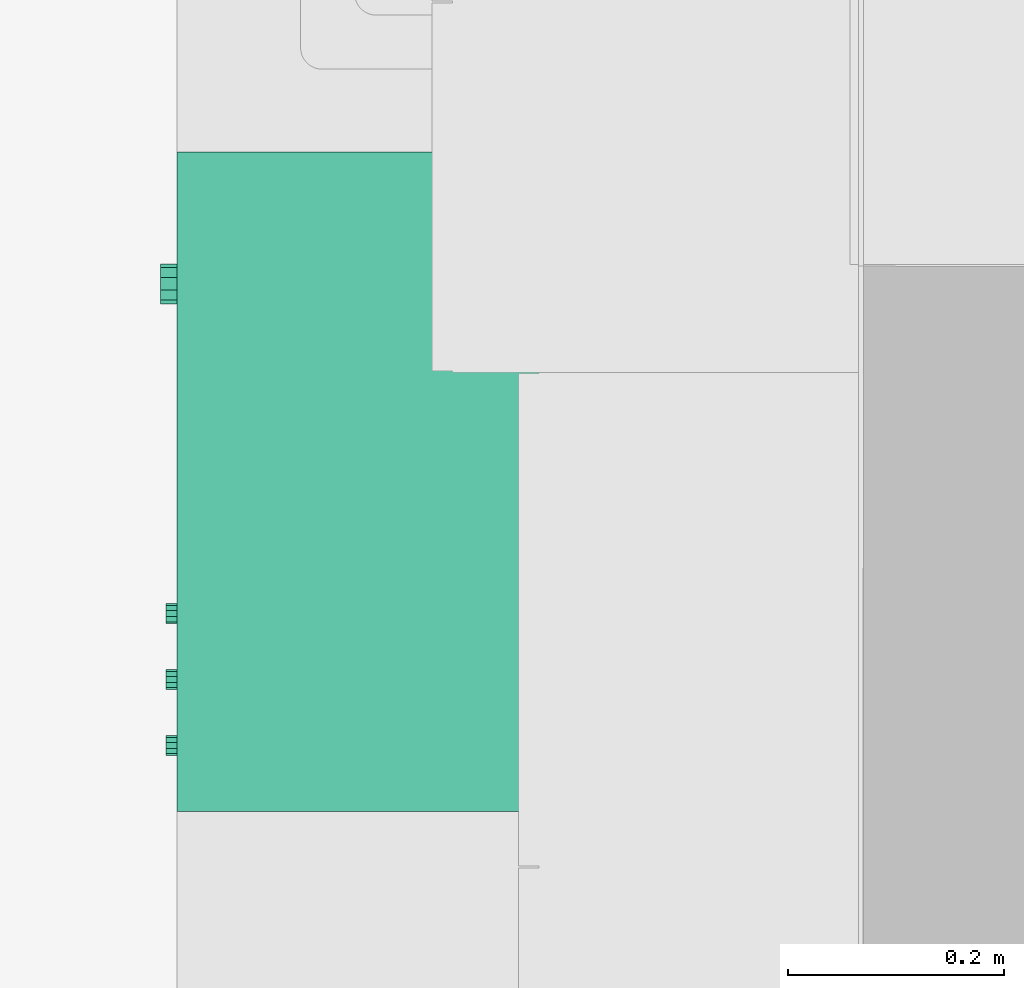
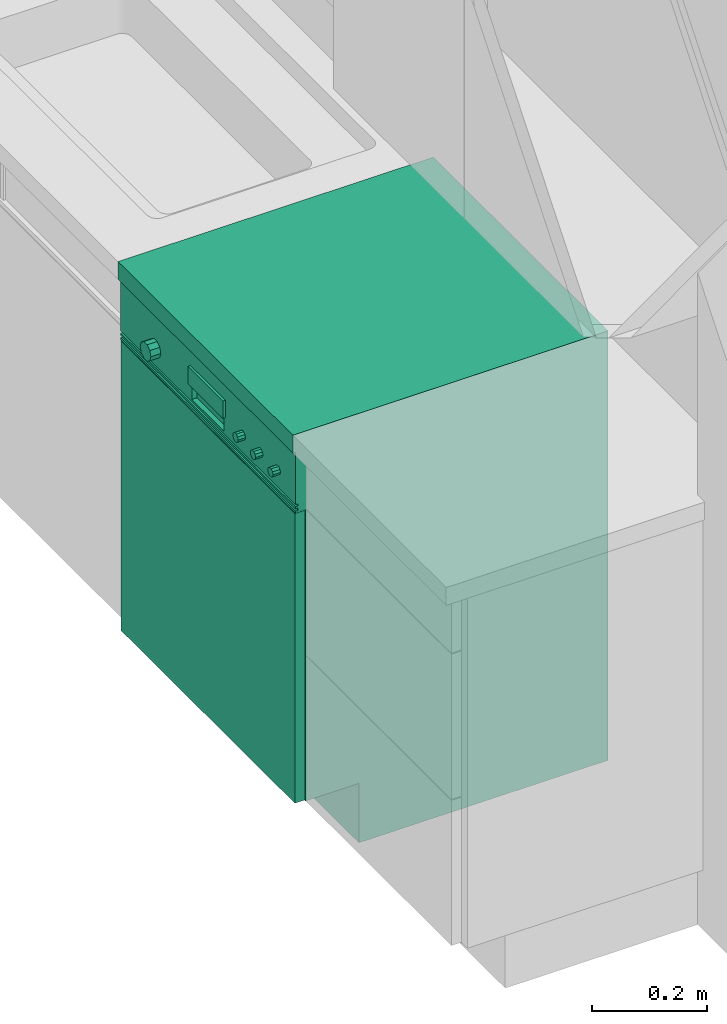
# One storey, part 52 of 77: 1 flow terminal.
"""IFC2X3 building model written with IfcOpenShell, lengths in inches."""

from ifc_helpers import new_model, entity, si_unit, converted_unit, derived_unit, money_unit, direction, frame, origin_with_axes, place, context, subcontext, project, spatial, faceted_brep, type_object, element, save


model = new_model("IFC2X3")

# Units and contexts
model_context = context("Model", 3, precision=0.000393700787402, world=origin_with_axes(), true_north=direction((0.0, 1.0)))
body_context = subcontext(model_context, "Body", "Model", "MODEL_VIEW")
ifc_project = project(units=[converted_unit("LENGTHUNIT", "INCH", entity("IfcPositiveLengthMeasure", 0.0254), si_unit("LENGTHUNIT", "METRE"), dimensions=[1, 0, 0, 0, 0, 0, 0]), converted_unit("AREAUNIT", "SQUARE_FOOT", entity("IfcPositiveLengthMeasure", 0.09290304), si_unit("AREAUNIT", "SQUARE_METRE"), dimensions=[2, 0, 0, 0, 0, 0, 0]), si_unit("PLANEANGLEUNIT", "RADIAN"), si_unit("SOLIDANGLEUNIT", "STERADIAN"), money_unit("USD"), converted_unit("TIMEUNIT", "Year", entity("IfcTimeMeasure", 31556926.0), si_unit("TIMEUNIT", "SECOND"), dimensions=[0, 0, 1, 0, 0, 0, 0]), si_unit("MASSUNIT", "GRAM", prefix="KILO"), si_unit("THERMODYNAMICTEMPERATUREUNIT", "DEGREE_CELSIUS"), si_unit("LUMINOUSINTENSITYUNIT", "LUMEN"), si_unit("ENERGYUNIT", "JOULE", prefix="MEGA"), derived_unit("THERMALCONDUCTANCEUNIT", [(si_unit("POWERUNIT", "WATT"), 1), (si_unit("LENGTHUNIT", "METRE"), -1), (si_unit("THERMODYNAMICTEMPERATUREUNIT", "KELVIN"), -1)]), derived_unit("SPECIFICHEATCAPACITYUNIT", [(si_unit("ENERGYUNIT", "JOULE"), 1), (si_unit("MASSUNIT", "GRAM", prefix="KILO"), -1), (si_unit("THERMODYNAMICTEMPERATUREUNIT", "KELVIN"), -1)]), derived_unit("MASSDENSITYUNIT", [(si_unit("MASSUNIT", "GRAM", prefix="KILO"), 1), (si_unit("VOLUMEUNIT", "CUBIC_METRE"), -1)])], contexts=[model_context])

# Site, building, storey
site_placement = place(None, origin_with_axes())
site = spatial("IfcSite", under=ifc_project, at=site_placement, Name="Site", CompositionType="ELEMENT")
building_placement = place(site_placement, origin_with_axes())
building = spatial("IfcBuilding", under=site, at=building_placement, Name="Building", CompositionType="ELEMENT")
storey_placement = place(building_placement, frame((0.0, 0.0, 127.952755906), z_axis=(0.0, 0.0, 1.0), x_axis=(1.0, 0.0, 0.0)))
storey = spatial("IfcBuildingStorey", under=building, at=storey_placement, Name="Second Floor", CompositionType="ELEMENT", Elevation=127.953)

# Flow terminal
electric_appliance_type = type_object("IfcElectricApplianceType", Name="Dishwasher Built-in 25", PredefinedType="NOTDEFINED")
flow_terminal_placement = place(storey_placement, frame((612.474370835, 254.001660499, 0.0157480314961), z_axis=(0.0, 0.0, 1.0), x_axis=(0.0, -1.0, 0.0)))
element("IfcFlowTerminal", 1, at=flow_terminal_placement, inside=storey, type_object=electric_appliance_type, Name="OBJ-96", context=body_context, shape_type="Brep", body=[
    faceted_brep([(0.0, 5.23622047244, 0.0), (24.0157480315, 5.23622047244, 0.0), (24.0157480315, 5.23622047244, 4.9842519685), (0.0, 5.23622047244, 4.9842519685), (0.0, 25.0, 0.0), (24.0157480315, 25.0, 0.0), (24.0157480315, 25.0, 4.9842519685), (0.0, 25.0, 4.9842519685)], [[[0, 1, 2, 3]], [[0, 4, 5, 1]], [[1, 5, 6, 2]], [[3, 2, 6, 7]], [[4, 0, 3, 7]], [[5, 4, 7, 6]]]),
    faceted_brep([(0.0, 0.984251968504, 33.7244094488), (0.787401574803, 0.984251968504, 33.7244094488), (0.787401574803, 0.984251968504, 34.5118110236), (0.0, 0.984251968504, 34.5118110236), (0.0, 25.0, 33.7244094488), (0.787401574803, 25.0, 33.7244094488), (23.2283464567, 25.0, 33.7244094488), (24.0157480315, 25.0, 33.7244094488), (24.0157480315, 0.984251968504, 33.7244094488), (23.2283464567, 0.984251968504, 33.7244094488), (23.2283464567, 0.984251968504, 34.5118110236), (24.0157480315, 0.984251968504, 34.5118110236), (24.0157480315, 25.0, 34.5118110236), (23.2283464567, 25.0, 34.5118110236), (0.787401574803, 25.0, 34.5118110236), (0.0, 25.0, 34.5118110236)], [[[0, 1, 2, 3]], [[0, 4, 5, 6, 7, 8, 9, 1]], [[1, 9, 10, 2]], [[3, 2, 10, 11, 12, 13, 14, 15]], [[4, 0, 3, 15]], [[5, 4, 15, 14]], [[6, 5, 14, 13]], [[7, 6, 13, 12]], [[8, 7, 12, 11]], [[9, 8, 11, 10]]]),
    faceted_brep([(0.0, 0.984251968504, 4.9842519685), (0.787401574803, 0.984251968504, 4.9842519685), (0.787401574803, 0.984251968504, 5.77165354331), (0.0, 0.984251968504, 5.77165354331), (0.0, 25.0, 4.9842519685), (0.787401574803, 25.0, 4.9842519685), (23.2283464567, 25.0, 4.9842519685), (24.0157480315, 25.0, 4.9842519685), (24.0157480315, 0.984251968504, 4.9842519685), (23.2283464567, 0.984251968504, 4.9842519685), (23.2283464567, 0.984251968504, 5.77165354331), (24.0157480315, 0.984251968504, 5.77165354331), (24.0157480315, 25.0, 5.77165354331), (23.2283464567, 25.0, 5.77165354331), (0.787401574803, 25.0, 5.77165354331), (0.0, 25.0, 5.77165354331)], [[[0, 1, 2, 3]], [[0, 4, 5, 6, 7, 8, 9, 1]], [[1, 9, 10, 2]], [[3, 2, 10, 11, 12, 13, 14, 15]], [[4, 0, 3, 15]], [[5, 4, 15, 14]], [[6, 5, 14, 13]], [[7, 6, 13, 12]], [[8, 7, 12, 11]], [[9, 8, 11, 10]]]),
    faceted_brep([(0.0, 0.984251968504, 5.77165354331), (0.787401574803, 0.984251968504, 5.77165354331), (0.787401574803, 0.984251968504, 33.7244094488), (0.0, 0.984251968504, 33.7244094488), (0.0, 25.0, 5.77165354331), (24.0157480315, 25.0, 5.77165354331), (24.0157480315, 0.984251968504, 5.77165354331), (23.2283464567, 0.984251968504, 5.77165354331), (23.2283464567, 24.2125984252, 5.77165354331), (0.787401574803, 24.2125984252, 5.77165354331), (0.787401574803, 24.2125984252, 33.7244094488), (23.2283464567, 24.2125984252, 33.7244094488), (23.2283464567, 0.984251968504, 33.7244094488), (24.0157480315, 0.984251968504, 33.7244094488), (24.0157480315, 25.0, 33.7244094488), (0.0, 25.0, 33.7244094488)], [[[0, 1, 2, 3]], [[0, 4, 5, 6, 7, 8, 9, 1]], [[1, 9, 10, 2]], [[3, 2, 10, 11, 12, 13, 14, 15]], [[4, 0, 3, 15]], [[5, 4, 15, 14]], [[6, 5, 14, 13]], [[7, 6, 13, 12]], [[8, 7, 12, 11]], [[9, 8, 11, 10]]]),
    faceted_brep([(0.0, 0.0, 34.5118110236), (24.0157480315, 0.0, 34.5118110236), (24.0157480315, 0.0, 36.0078740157), (0.0, 0.0, 36.0078740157), (0.0, 25.0, 34.5118110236), (24.0157480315, 25.0, 34.5118110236), (24.0157480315, 25.0, 36.0078740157), (0.0, 25.0, 36.0078740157)], [[[0, 1, 2, 3]], [[0, 4, 5, 1]], [[1, 5, 6, 2]], [[3, 2, 6, 7]], [[4, 0, 3, 7]], [[5, 4, 7, 6]]]),
    faceted_brep([(0.0, 0.984251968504, 30.1248593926), (24.0157480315, 0.984251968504, 30.1248593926), (24.0157480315, 0.196850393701, 30.1248593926), (0.0, 0.196850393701, 30.1248593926), (0.0, 0.984251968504, 34.5118110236), (24.0157480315, 0.984251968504, 34.5118110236), (9.6062992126, 0.984251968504, 30.1248593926), (14.4094488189, 0.984251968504, 30.1248593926), (14.4094488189, 0.984251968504, 33.0494938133), (9.6062992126, 0.984251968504, 33.0494938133), (24.0157480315, 0.196850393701, 34.5118110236), (0.0, 0.196850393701, 34.5118110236), (9.6062992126, 0.196850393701, 30.1248593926), (9.6062992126, 0.196850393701, 33.0494938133), (14.4094488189, 0.196850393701, 33.0494938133), (14.4094488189, 0.196850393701, 30.1248593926)], [[[0, 1, 2, 3]], [[0, 4, 5, 1], [6, 7, 8, 9]], [[1, 5, 10, 2]], [[3, 2, 10, 11], [12, 13, 14, 15]], [[4, 0, 3, 11]], [[5, 4, 11, 10]], [[7, 6, 12, 15]], [[8, 7, 15, 14]], [[9, 8, 14, 13]], [[6, 9, 13, 12]]]),
    faceted_brep([(0.0, 0.984251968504, 29.3937007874), (24.0157480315, 0.984251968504, 29.3937007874), (24.0157480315, 0.393700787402, 29.3937007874), (0.0, 0.393700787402, 29.3937007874), (0.0, 0.984251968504, 30.1248593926), (24.0157480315, 0.984251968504, 30.1248593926), (24.0157480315, 0.393700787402, 30.1248593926), (0.0, 0.393700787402, 30.1248593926)], [[[0, 1, 2, 3]], [[0, 4, 5, 1]], [[1, 5, 6, 2]], [[3, 2, 6, 7]], [[4, 0, 3, 7]], [[5, 4, 7, 6]]]),
    faceted_brep([(0.0, 0.393700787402, 29.3937007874), (24.0157480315, 0.393700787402, 29.3937007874), (24.0157480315, 0.196850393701, 29.3937007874), (0.0, 0.196850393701, 29.3937007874), (0.0, 0.393700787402, 29.5764904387), (24.0157480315, 0.393700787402, 29.5764904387), (24.0157480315, 0.196850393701, 29.5764904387), (0.0, 0.196850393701, 29.5764904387)], [[[0, 1, 2, 3]], [[0, 4, 5, 1]], [[1, 5, 6, 2]], [[3, 2, 6, 7]], [[4, 0, 3, 7]], [[5, 4, 7, 6]]]),
    faceted_brep([(0.0, 0.393700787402, 29.75928009), (24.0157480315, 0.393700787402, 29.75928009), (24.0157480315, 0.196850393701, 29.75928009), (0.0, 0.196850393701, 29.75928009), (0.0, 0.393700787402, 29.9420697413), (24.0157480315, 0.393700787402, 29.9420697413), (24.0157480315, 0.196850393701, 29.9420697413), (0.0, 0.196850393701, 29.9420697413)], [[[0, 1, 2, 3]], [[0, 4, 5, 1]], [[1, 5, 6, 2]], [[3, 2, 6, 7]], [[4, 0, 3, 7]], [[5, 4, 7, 6]]]),
    faceted_brep([(9.6062992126, 0.984251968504, 30.1248593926), (14.4094488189, 0.984251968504, 30.1248593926), (14.4094488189, 0.590551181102, 30.1248593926), (9.6062992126, 0.590551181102, 30.1248593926), (9.6062992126, 0.984251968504, 33.0494938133), (14.4094488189, 0.984251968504, 33.0494938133), (14.4094488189, 0.590551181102, 33.0494938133), (9.6062992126, 0.590551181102, 33.0494938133)], [[[0, 1, 2, 3]], [[0, 4, 5, 1]], [[1, 5, 6, 2]], [[3, 2, 6, 7]], [[4, 0, 3, 7]], [[5, 4, 7, 6]]]),
    faceted_brep([(9.6062992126, 0.590551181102, 30.1248593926), (14.4094488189, 0.590551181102, 30.1248593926), (14.4094488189, 0.196850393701, 30.1248593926), (9.6062992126, 0.196850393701, 30.1248593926), (9.6062992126, 0.590551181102, 33.0494938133), (14.4094488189, 0.590551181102, 33.0494938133), (9.8031496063, 0.590551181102, 30.3217097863), (14.2125984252, 0.590551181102, 30.3217097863), (14.2125984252, 0.590551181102, 32.8526434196), (9.8031496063, 0.590551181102, 32.8526434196), (14.4094488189, 0.196850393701, 33.0494938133), (9.6062992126, 0.196850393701, 33.0494938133), (9.8031496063, 0.196850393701, 30.3217097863), (9.8031496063, 0.196850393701, 32.8526434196), (14.2125984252, 0.196850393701, 32.8526434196), (14.2125984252, 0.196850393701, 30.3217097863)], [[[0, 1, 2, 3]], [[0, 4, 5, 1], [6, 7, 8, 9]], [[1, 5, 10, 2]], [[3, 2, 10, 11], [12, 13, 14, 15]], [[4, 0, 3, 11]], [[5, 4, 11, 10]], [[7, 6, 12, 15]], [[8, 7, 15, 14]], [[9, 8, 14, 13]], [[6, 9, 13, 12]]]),
    faceted_brep([(9.6062992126, 0.196850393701, 31.5871766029), (14.4094488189, 0.196850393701, 31.5871766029), (14.4094488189, 0.0, 31.5871766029), (9.6062992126, 0.0, 31.5871766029), (9.6062992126, 0.196850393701, 33.0494938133), (14.4094488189, 0.196850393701, 33.0494938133), (14.4094488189, 0.0, 33.0494938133), (9.6062992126, 0.0, 33.0494938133)], [[[0, 1, 2, 3]], [[0, 4, 5, 1]], [[1, 5, 6, 2]], [[3, 2, 6, 7]], [[4, 0, 3, 7]], [[5, 4, 7, 6]]]),
    faceted_brep([(5.39466934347, 0.196850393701, 31.1574123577), (5.02909004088, 0.196850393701, 30.891803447), (4.57720917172, 0.196850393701, 30.891803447), (4.21162986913, 0.196850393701, 31.1574123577), (4.07199100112, 0.196850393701, 31.5871766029), (4.21162986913, 0.196850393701, 32.0169408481), (4.57720917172, 0.196850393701, 32.2825497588), (5.02909004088, 0.196850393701, 32.2825497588), (5.39466934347, 0.196850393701, 32.0169408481), (5.53430821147, 0.196850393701, 31.5871766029), (5.39466934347, -0.590551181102, 31.1574123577), (5.02909004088, -0.590551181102, 30.891803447), (4.57720917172, -0.590551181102, 30.891803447), (4.21162986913, -0.590551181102, 31.1574123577), (4.07199100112, -0.590551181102, 31.5871766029), (4.21162986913, -0.590551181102, 32.0169408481), (4.57720917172, -0.590551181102, 32.2825497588), (5.02909004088, -0.590551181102, 32.2825497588), (5.39466934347, -0.590551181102, 32.0169408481), (5.53430821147, -0.590551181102, 31.5871766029)], [[[0, 1, 2, 3, 4, 5, 6, 7, 8, 9]], [[1, 0, 10, 11]], [[2, 1, 11, 12]], [[3, 2, 12, 13]], [[4, 3, 13, 14]], [[5, 4, 14, 15]], [[6, 5, 15, 16]], [[7, 6, 16, 17]], [[8, 7, 17, 18]], [[9, 8, 18, 19]], [[0, 9, 19, 10]], [[10, 19, 18, 17, 16, 15, 14, 13, 12, 11]]]),
    faceted_brep([(17.1067834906, 0.196850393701, 31.3722944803), (16.9239938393, 0.196850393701, 31.239490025), (16.6980534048, 0.196850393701, 31.239490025), (16.5152637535, 0.196850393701, 31.3722944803), (16.4454443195, 0.196850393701, 31.5871766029), (16.5152637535, 0.196850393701, 31.8020587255), (16.6980534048, 0.196850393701, 31.9348631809), (16.9239938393, 0.196850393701, 31.9348631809), (17.1067834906, 0.196850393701, 31.8020587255), (17.1766029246, 0.196850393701, 31.5871766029), (17.1067834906, -0.393700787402, 31.3722944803), (16.9239938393, -0.393700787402, 31.239490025), (16.6980534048, -0.393700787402, 31.239490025), (16.5152637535, -0.393700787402, 31.3722944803), (16.4454443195, -0.393700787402, 31.5871766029), (16.5152637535, -0.393700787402, 31.8020587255), (16.6980534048, -0.393700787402, 31.9348631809), (16.9239938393, -0.393700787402, 31.9348631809), (17.1067834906, -0.393700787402, 31.8020587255), (17.1766029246, -0.393700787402, 31.5871766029)], [[[0, 1, 2, 3, 4, 5, 6, 7, 8, 9]], [[1, 0, 10, 11]], [[2, 1, 11, 12]], [[3, 2, 12, 13]], [[4, 3, 13, 14]], [[5, 4, 14, 15]], [[6, 5, 15, 16]], [[7, 6, 16, 17]], [[8, 7, 17, 18]], [[9, 8, 18, 19]], [[0, 9, 19, 10]], [[10, 19, 18, 17, 16, 15, 14, 13, 12, 11]]]),
    faceted_brep([(19.5083582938, 0.196850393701, 31.3722944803), (19.3255686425, 0.196850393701, 31.239490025), (19.0996282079, 0.196850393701, 31.239490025), (18.9168385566, 0.196850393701, 31.3722944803), (18.8470191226, 0.196850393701, 31.5871766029), (18.9168385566, 0.196850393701, 31.8020587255), (19.0996282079, 0.196850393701, 31.9348631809), (19.3255686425, 0.196850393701, 31.9348631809), (19.5083582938, 0.196850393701, 31.8020587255), (19.5781777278, 0.196850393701, 31.5871766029), (19.5083582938, -0.393700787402, 31.3722944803), (19.3255686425, -0.393700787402, 31.239490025), (19.0996282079, -0.393700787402, 31.239490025), (18.9168385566, -0.393700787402, 31.3722944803), (18.8470191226, -0.393700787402, 31.5871766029), (18.9168385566, -0.393700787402, 31.8020587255), (19.0996282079, -0.393700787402, 31.9348631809), (19.3255686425, -0.393700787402, 31.9348631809), (19.5083582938, -0.393700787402, 31.8020587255), (19.5781777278, -0.393700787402, 31.5871766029)], [[[0, 1, 2, 3, 4, 5, 6, 7, 8, 9]], [[1, 0, 10, 11]], [[2, 1, 11, 12]], [[3, 2, 12, 13]], [[4, 3, 13, 14]], [[5, 4, 14, 15]], [[6, 5, 15, 16]], [[7, 6, 16, 17]], [[8, 7, 17, 18]], [[9, 8, 18, 19]], [[0, 9, 19, 10]], [[10, 19, 18, 17, 16, 15, 14, 13, 12, 11]]]),
    faceted_brep([(21.9099330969, 0.196850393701, 31.3722944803), (21.7271434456, 0.196850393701, 31.239490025), (21.5012030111, 0.196850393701, 31.239490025), (21.3184133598, 0.196850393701, 31.3722944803), (21.2485939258, 0.196850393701, 31.5871766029), (21.3184133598, 0.196850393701, 31.8020587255), (21.5012030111, 0.196850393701, 31.9348631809), (21.7271434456, 0.196850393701, 31.9348631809), (21.9099330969, 0.196850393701, 31.8020587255), (21.9797525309, 0.196850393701, 31.5871766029), (21.9099330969, -0.393700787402, 31.3722944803), (21.7271434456, -0.393700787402, 31.239490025), (21.5012030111, -0.393700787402, 31.239490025), (21.3184133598, -0.393700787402, 31.3722944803), (21.2485939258, -0.393700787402, 31.5871766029), (21.3184133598, -0.393700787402, 31.8020587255), (21.5012030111, -0.393700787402, 31.9348631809), (21.7271434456, -0.393700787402, 31.9348631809), (21.9099330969, -0.393700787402, 31.8020587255), (21.9797525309, -0.393700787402, 31.5871766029)], [[[0, 1, 2, 3, 4, 5, 6, 7, 8, 9]], [[1, 0, 10, 11]], [[2, 1, 11, 12]], [[3, 2, 12, 13]], [[4, 3, 13, 14]], [[5, 4, 14, 15]], [[6, 5, 15, 16]], [[7, 6, 16, 17]], [[8, 7, 17, 18]], [[9, 8, 18, 19]], [[0, 9, 19, 10]], [[10, 19, 18, 17, 16, 15, 14, 13, 12, 11]]]),
    faceted_brep([(0.0590551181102, 0.984251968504, 5.04330708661), (23.9566929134, 0.984251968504, 5.04330708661), (23.9566929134, 0.196850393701, 5.04330708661), (0.0590551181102, 0.196850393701, 5.04330708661), (0.0590551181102, 0.984251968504, 29.3346456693), (23.9566929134, 0.984251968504, 29.3346456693), (23.9566929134, 0.196850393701, 29.3346456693), (0.0590551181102, 0.196850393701, 29.3346456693)], [[[0, 1, 2, 3]], [[0, 4, 5, 1]], [[1, 5, 6, 2]], [[3, 2, 6, 7]], [[4, 0, 3, 7]], [[5, 4, 7, 6]]]),
])

save(model, "model.ifc")
